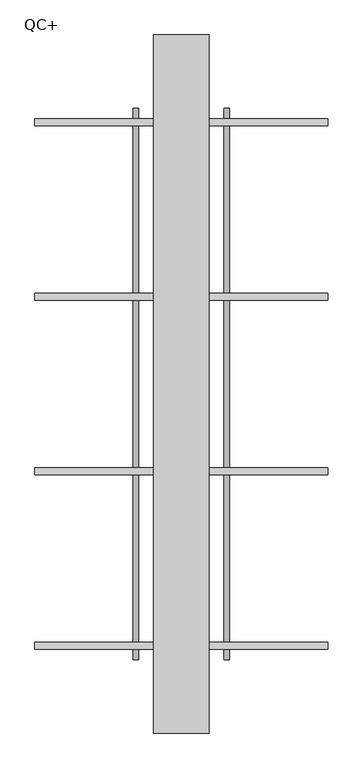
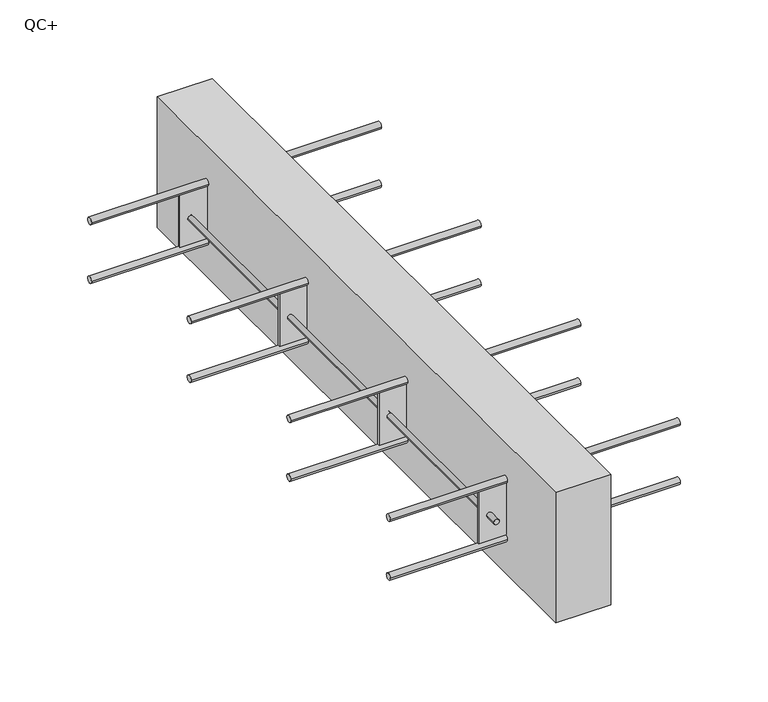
"""IFC4 building model written with IfcOpenShell, lengths in millimetres: proxy geometry, ACINOXplus_Typenreihe_Q : QC+."""

from ifc_helpers import new_model, si_unit, point, frame, frame_2d, origin, place, context, project, spatial, polyline, circle_curve, trimmed, segment, composite_curve, outline, extrude, source, transform, mapped, element, save


def qc_ba1e7490(model_context):
    return source(origin(), model_context, "Body", "SweptSolid", [
        extrude(outline(polyline([(40.0, 500.0), (40.0, -500.0), (-40.0, -500.0), (-40.0, 500.0), (40.0, 500.0)])), frame((0.0, 0.0, -200.0), z_axis=(0.0, 0.0, 1.0), x_axis=(1.0, 0.0, 0.0)), (0.0, 0.0, 1.0), 200.0),
        extrude(outline(polyline([(80.0, -123.5), (80.0, -126.5), (-80.0, -126.5), (-80.0, -123.5), (80.0, -123.5)])), frame((0.0, 0.0, -140.0), z_axis=(0.0, 0.0, 1.0), x_axis=(1.0, 0.0, 0.0)), (0.0, 0.0, 1.0), 80.0),
        extrude(outline(polyline([(80.0, 126.5), (80.0, 123.5), (-80.0, 123.5), (-80.0, 126.5), (80.0, 126.5)])), frame((0.0, 0.0, -140.0), z_axis=(0.0, 0.0, 1.0), x_axis=(1.0, 0.0, 0.0)), (0.0, 0.0, 1.0), 80.0),
        extrude(outline(polyline([(80.0, -373.5), (80.0, -376.5), (-80.0, -376.5), (-80.0, -373.5), (80.0, -373.5)])), frame((0.0, 0.0, -140.0), z_axis=(0.0, 0.0, 1.0), x_axis=(1.0, 0.0, 0.0)), (0.0, 0.0, 1.0), 80.0),
        extrude(outline(polyline([(80.0, 376.5), (80.0, 373.5), (-80.0, 373.5), (-80.0, 376.5), (80.0, 376.5)])), frame((0.0, 0.0, -140.0), z_axis=(0.0, 0.0, 1.0), x_axis=(1.0, 0.0, 0.0)), (0.0, 0.0, 1.0), 80.0),
        extrude(outline(composite_curve([segment(trimmed(circle_curve(frame_2d((-100.0, -65.0)), 4.0), [point((-100.0, -69.0))], [point((-100.0, -61.0))], False, "CARTESIAN"), True, "CONTINUOUS"), segment(trimmed(circle_curve(frame_2d((-100.0, -65.0)), 4.0), [point((-100.0, -61.0))], [point((-100.0, -69.0))], False, "CARTESIAN"), True, "CONTINUOUS")], self_intersect=False)), frame((0.0, -373.5, 0.0), z_axis=(0.0, 1.0, 0.0), x_axis=(0.0, 0.0, 1.0)), (0.0, 0.0, 1.0), 497.0),
        extrude(outline(composite_curve([segment(trimmed(circle_curve(frame_2d((-100.0, -65.0)), 4.0), [point((-100.0, -69.0))], [point((-100.0, -61.0))], False, "CARTESIAN"), True, "CONTINUOUS"), segment(trimmed(circle_curve(frame_2d((-100.0, -65.0)), 4.0), [point((-100.0, -61.0))], [point((-100.0, -69.0))], False, "CARTESIAN"), True, "CONTINUOUS")], self_intersect=False)), frame((0.0, 376.5, 0.0), z_axis=(0.0, 1.0, 0.0), x_axis=(0.0, 0.0, 1.0)), (0.0, 0.0, 1.0), 18.5),
        extrude(outline(composite_curve([segment(trimmed(circle_curve(frame_2d((-100.0, -65.0)), 4.0), [point((-100.0, -61.0))], [point((-100.0, -69.0))], False, "CARTESIAN"), True, "CONTINUOUS"), segment(trimmed(circle_curve(frame_2d((-100.0, -65.0)), 4.0), [point((-100.0, -69.0))], [point((-100.0, -61.0))], False, "CARTESIAN"), True, "CONTINUOUS")], self_intersect=False)), frame((0.0, -395.0, 0.0), z_axis=(0.0, 1.0, 0.0), x_axis=(0.0, 0.0, 1.0)), (0.0, 0.0, 1.0), 18.5),
        extrude(outline(composite_curve([segment(trimmed(circle_curve(frame_2d((-100.0, -65.0)), 4.0), [point((-100.0, -69.0))], [point((-100.0, -61.0))], False, "CARTESIAN"), True, "CONTINUOUS"), segment(trimmed(circle_curve(frame_2d((-100.0, -65.0)), 4.0), [point((-100.0, -61.0))], [point((-100.0, -69.0))], False, "CARTESIAN"), True, "CONTINUOUS")], self_intersect=False)), frame((0.0, 126.5, 0.0), z_axis=(0.0, 1.0, 0.0), x_axis=(0.0, 0.0, 1.0)), (0.0, 0.0, 1.0), 247.0),
        extrude(outline(composite_curve([segment(trimmed(circle_curve(frame_2d((-100.0, 65.0)), 4.0), [point((-100.0, 61.0))], [point((-100.0, 69.0))], False, "CARTESIAN"), True, "CONTINUOUS"), segment(trimmed(circle_curve(frame_2d((-100.0, 65.0)), 4.0), [point((-100.0, 69.0))], [point((-100.0, 61.0))], False, "CARTESIAN"), True, "CONTINUOUS")], self_intersect=False)), frame((0.0, -373.5, 0.0), z_axis=(0.0, 1.0, 0.0), x_axis=(0.0, 0.0, 1.0)), (0.0, 0.0, 1.0), 497.0),
        extrude(outline(composite_curve([segment(trimmed(circle_curve(frame_2d((-100.0, 65.0)), 4.0), [point((-100.0, 61.0))], [point((-100.0, 69.0))], False, "CARTESIAN"), True, "CONTINUOUS"), segment(trimmed(circle_curve(frame_2d((-100.0, 65.0)), 4.0), [point((-100.0, 69.0))], [point((-100.0, 61.0))], False, "CARTESIAN"), True, "CONTINUOUS")], self_intersect=False)), frame((0.0, 376.5, 0.0), z_axis=(0.0, 1.0, 0.0), x_axis=(0.0, 0.0, 1.0)), (0.0, 0.0, 1.0), 18.5),
        extrude(outline(composite_curve([segment(trimmed(circle_curve(frame_2d((-100.0, 65.0)), 4.0), [point((-100.0, 69.0))], [point((-100.0, 61.0))], False, "CARTESIAN"), True, "CONTINUOUS"), segment(trimmed(circle_curve(frame_2d((-100.0, 65.0)), 4.0), [point((-100.0, 61.0))], [point((-100.0, 69.0))], False, "CARTESIAN"), True, "CONTINUOUS")], self_intersect=False)), frame((0.0, -395.0, 0.0), z_axis=(0.0, 1.0, 0.0), x_axis=(0.0, 0.0, 1.0)), (0.0, 0.0, 1.0), 18.5),
        extrude(outline(composite_curve([segment(trimmed(circle_curve(frame_2d((-100.0, 65.0)), 4.0), [point((-100.0, 61.0))], [point((-100.0, 69.0))], False, "CARTESIAN"), True, "CONTINUOUS"), segment(trimmed(circle_curve(frame_2d((-100.0, 65.0)), 4.0), [point((-100.0, 69.0))], [point((-100.0, 61.0))], False, "CARTESIAN"), True, "CONTINUOUS")], self_intersect=False)), frame((0.0, 126.5, 0.0), z_axis=(0.0, 1.0, 0.0), x_axis=(0.0, 0.0, 1.0)), (0.0, 0.0, 1.0), 247.0),
        extrude(outline(composite_curve([segment(trimmed(circle_curve(frame_2d((125.0, -145.0)), 5.0), [point((120.0, -145.0))], [point((130.0, -145.0))], False, "CARTESIAN"), True, "CONTINUOUS"), segment(trimmed(circle_curve(frame_2d((125.0, -145.0)), 5.0), [point((130.0, -145.0))], [point((120.0, -145.0))], False, "CARTESIAN"), True, "CONTINUOUS")], self_intersect=False)), frame((-210.0, 0.0, 0.0), z_axis=(1.0, 0.0, 0.0), x_axis=(0.0, 1.0, 0.0)), (0.0, 0.0, 1.0), 420.0),
        extrude(outline(composite_curve([segment(trimmed(circle_curve(frame_2d((375.0, -145.0)), 5.0), [point((370.0, -145.0))], [point((380.0, -145.0))], False, "CARTESIAN"), True, "CONTINUOUS"), segment(trimmed(circle_curve(frame_2d((375.0, -145.0)), 5.0), [point((380.0, -145.0))], [point((370.0, -145.0))], False, "CARTESIAN"), True, "CONTINUOUS")], self_intersect=False)), frame((-210.0, 0.0, 0.0), z_axis=(1.0, 0.0, 0.0), x_axis=(0.0, 1.0, 0.0)), (0.0, 0.0, 1.0), 420.0),
        extrude(outline(composite_curve([segment(trimmed(circle_curve(frame_2d((-125.0, -145.0)), 5.0), [point((-130.0, -145.0))], [point((-120.0, -145.0))], False, "CARTESIAN"), True, "CONTINUOUS"), segment(trimmed(circle_curve(frame_2d((-125.0, -145.0)), 5.0), [point((-120.0, -145.0))], [point((-130.0, -145.0))], False, "CARTESIAN"), True, "CONTINUOUS")], self_intersect=False)), frame((-210.0, 0.0, 0.0), z_axis=(1.0, 0.0, 0.0), x_axis=(0.0, 1.0, 0.0)), (0.0, 0.0, 1.0), 420.0),
        extrude(outline(composite_curve([segment(trimmed(circle_curve(frame_2d((-375.0, -145.0)), 5.0), [point((-380.0, -145.0))], [point((-370.0, -145.0))], False, "CARTESIAN"), True, "CONTINUOUS"), segment(trimmed(circle_curve(frame_2d((-375.0, -145.0)), 5.0), [point((-370.0, -145.0))], [point((-380.0, -145.0))], False, "CARTESIAN"), True, "CONTINUOUS")], self_intersect=False)), frame((-210.0, 0.0, 0.0), z_axis=(1.0, 0.0, 0.0), x_axis=(0.0, 1.0, 0.0)), (0.0, 0.0, 1.0), 420.0),
        extrude(outline(composite_curve([segment(trimmed(circle_curve(frame_2d((125.0, -55.0)), 5.0), [point((120.0, -55.0))], [point((130.0, -55.0))], False, "CARTESIAN"), True, "CONTINUOUS"), segment(trimmed(circle_curve(frame_2d((125.0, -55.0)), 5.0), [point((130.0, -55.0))], [point((120.0, -55.0))], False, "CARTESIAN"), True, "CONTINUOUS")], self_intersect=False)), frame((-210.0, 0.0, 0.0), z_axis=(1.0, 0.0, 0.0), x_axis=(0.0, 1.0, 0.0)), (0.0, 0.0, 1.0), 420.0),
        extrude(outline(composite_curve([segment(trimmed(circle_curve(frame_2d((375.0, -55.0)), 5.0), [point((370.0, -55.0))], [point((380.0, -55.0))], False, "CARTESIAN"), True, "CONTINUOUS"), segment(trimmed(circle_curve(frame_2d((375.0, -55.0)), 5.0), [point((380.0, -55.0))], [point((370.0, -55.0))], False, "CARTESIAN"), True, "CONTINUOUS")], self_intersect=False)), frame((-210.0, 0.0, 0.0), z_axis=(1.0, 0.0, 0.0), x_axis=(0.0, 1.0, 0.0)), (0.0, 0.0, 1.0), 420.0),
        extrude(outline(composite_curve([segment(trimmed(circle_curve(frame_2d((-125.0, -55.0)), 5.0), [point((-130.0, -55.0))], [point((-120.0, -55.0))], False, "CARTESIAN"), True, "CONTINUOUS"), segment(trimmed(circle_curve(frame_2d((-125.0, -55.0)), 5.0), [point((-120.0, -55.0))], [point((-130.0, -55.0))], False, "CARTESIAN"), True, "CONTINUOUS")], self_intersect=False)), frame((-210.0, 0.0, 0.0), z_axis=(1.0, 0.0, 0.0), x_axis=(0.0, 1.0, 0.0)), (0.0, 0.0, 1.0), 420.0),
        extrude(outline(composite_curve([segment(trimmed(circle_curve(frame_2d((-375.0, -55.0)), 5.0), [point((-380.0, -55.0))], [point((-370.0, -55.0))], False, "CARTESIAN"), True, "CONTINUOUS"), segment(trimmed(circle_curve(frame_2d((-375.0, -55.0)), 5.0), [point((-370.0, -55.0))], [point((-380.0, -55.0))], False, "CARTESIAN"), True, "CONTINUOUS")], self_intersect=False)), frame((-210.0, 0.0, 0.0), z_axis=(1.0, 0.0, 0.0), x_axis=(0.0, 1.0, 0.0)), (0.0, 0.0, 1.0), 420.0),
    ])


if __name__ == "__main__":
    model = new_model("IFC4")
    model_context = context("Model", 3, world=origin())
    ifc_project = project(units=[si_unit("LENGTHUNIT", "METRE", prefix="MILLI")], contexts=[model_context])
    site = spatial("IfcSite", under=ifc_project)
    building = spatial("IfcBuilding", under=site)
    placement = place(None, origin())
    qc_shape = qc_ba1e7490(model_context)
    element("IfcBuildingElementProxy", 1, Name="ACINOXplus_Typenreihe_Q : QC+", ObjectType="ACINOXplus_Typenreihe_Q : QC+", at=placement, inside=building, context=model_context, shape_type="MappedRepresentation", body=[
        mapped(qc_shape, transform((0.0, 0.0, 0.0), x_axis=(1.0, 0.0, 0.0), y_axis=(0.0, 1.0, 0.0), z_axis=(0.0, 0.0, 1.0))),
    ])
    save(model, "model.ifc")
